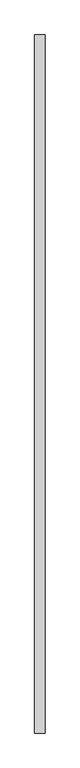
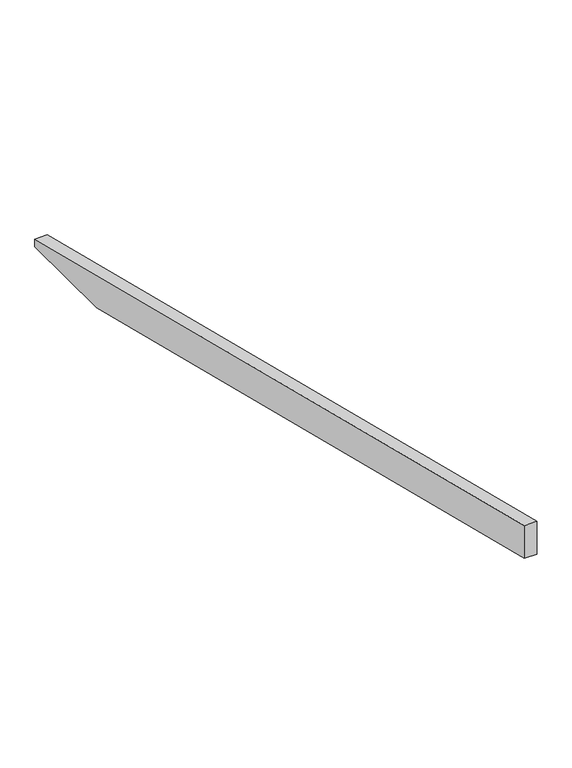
"""IFC4 building model written with IfcOpenShell, lengths in millimetres: proxy geometry, Modelos genéricos 130 : Modelos genéricos 12."""

from ifc_helpers import new_model, si_unit, frame, origin, place, context, project, spatial, polyline, outline, extrude, source, transform, mapped, element, save


def generic_models_011da5c6(model_context):
    return source(origin(), model_context, "Body", "SweptSolid", [
        extrude(outline(polyline([(6078.6238165, 3197.4798401), (6078.6238165, 3160.0), (5567.5767654, 3160.0), (2018.6238165, 4044.8533509), (2018.6238165, 4209.7515316), (6078.6238165, 3197.4798401)])), frame((9223.4472467, 0.0, 0.0), z_axis=(1.0, 0.0, 0.0), x_axis=(0.0, 1.0, 0.0)), (0.0, 0.0, 1.0), 60.0),
    ])


if __name__ == "__main__":
    model = new_model("IFC4")
    model_context = context("Model", 3, world=origin())
    ifc_project = project(units=[si_unit("LENGTHUNIT", "METRE", prefix="MILLI")], contexts=[model_context])
    site = spatial("IfcSite", under=ifc_project)
    building = spatial("IfcBuilding", under=site)
    placement = place(None, origin())
    generic_models_shape = generic_models_011da5c6(model_context)
    element("IfcBuildingElementProxy", 1, Name="Modelos genéricos 130 : Modelos genéricos 12", ObjectType="Modelos genéricos 130 : Modelos genéricos 12", at=placement, inside=building, context=model_context, shape_type="MappedRepresentation", body=[
        mapped(generic_models_shape, transform((0.0, 0.0, 0.0), x_axis=(1.0, 0.0, 0.0), y_axis=(0.0, 1.0, 0.0), z_axis=(0.0, 0.0, 1.0))),
    ])
    save(model, "model.ifc")
